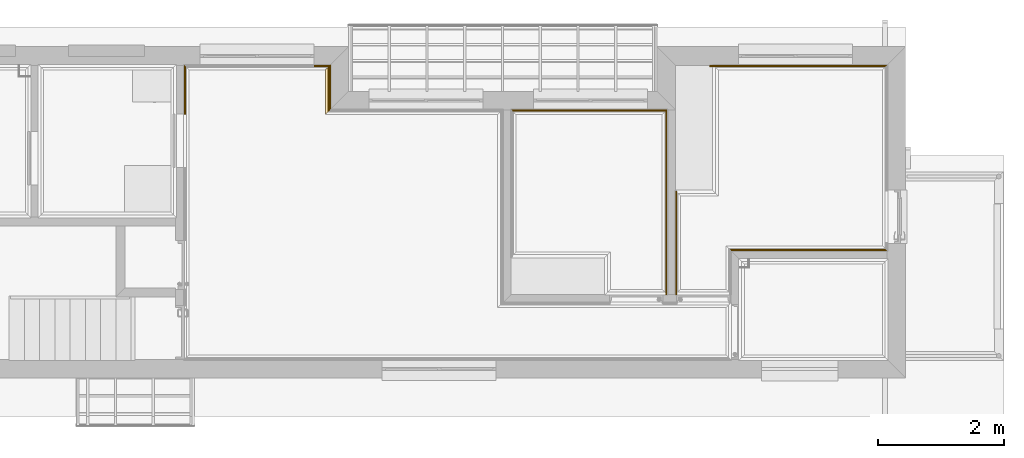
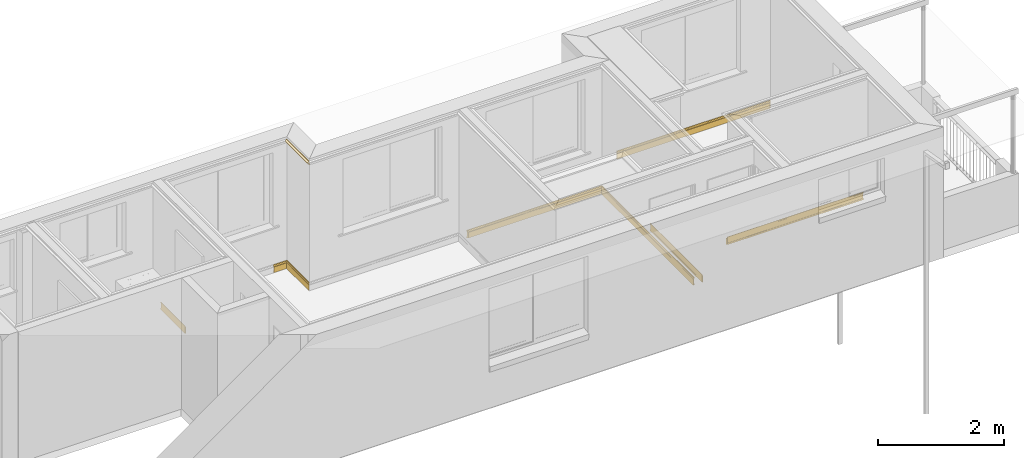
# One storey, part 8 of 18: 9 coverings.
"""IFC2X3 building model written with IfcOpenShell, lengths in millimetres."""

import ifcopenshell
import ifcopenshell.guid

model = None  # the IFC model being written
_history = None  # IfcOwnerHistory: only IFC2X3 demands one
_inside = {}  # id of a spatial element -> (the spatial element, [elements in it])
_under = {}  # id of a project, library or spatial element -> (it, [spatial elements below it])
_declared = {}  # id of a project -> (the project, [libraries it declares])
_typed = {}  # id of a type object -> (the type object, [elements of that type])
_made_of = {}  # id of a material, layer set ... -> (it, [elements and type objects made of it])


def new_model(schema):
    """Start an empty IFC model of exactly this schema.

    Asked for "IFC4X3", IfcOpenShell would pick the latest addendum, in which some entities
    have other attributes; the version numbers below select the first issue.
    IFC2X3 requires an IfcOwnerHistory on every rooted entity: one is made here for all.
    """
    global model, _history
    if schema == "IFC4X3":
        model = ifcopenshell.file(schema_version=(4, 3, 0, 0))
    else:
        model = ifcopenshell.file(schema=schema)
    _inside.clear()
    _under.clear()
    _declared.clear()
    _typed.clear()
    _made_of.clear()
    _history = None
    if model.schema == "IFC2X3":
        org = make("IfcOrganization", Name="unknown")
        user = make(
            "IfcPersonAndOrganization",
            ThePerson=make("IfcPerson", FamilyName="unknown"),
            TheOrganization=org,
        )
        app = make(
            "IfcApplication",
            ApplicationDeveloper=org,
            Version="unknown",
            ApplicationFullName="unknown",
            ApplicationIdentifier="unknown",
        )
        _history = make(
            "IfcOwnerHistory",
            OwningUser=user,
            OwningApplication=app,
            ChangeAction="ADDED",
            CreationDate=0,
        )
    return model


def make(cls, **values):
    """One entity of the class cls with the attributes given. An attribute that is None is left unset."""
    return model.create_entity(
        cls, **{name: value for name, value in values.items() if value is not None}
    )


def entity(cls, *values):
    """Any entity or typed value of the class cls, its attributes in the order of the schema. None: left unset."""
    e = model.create_entity(cls)
    for i, value in enumerate(values):
        if value is not None:
            e[i] = value
    return e


def rooted(cls, **values):
    """An entity with a GlobalId (a new one), such as an element, a storey or a relation."""
    return make(cls, GlobalId=ifcopenshell.guid.new(), OwnerHistory=_history, **values)


def si_unit(unit_type, name, prefix=None):
    """IfcSIUnit, for example si_unit("LENGTHUNIT", "METRE", prefix="MILLI")."""
    return make("IfcSIUnit", UnitType=unit_type, Prefix=prefix, Name=name)


def converted_unit(unit_type, name, factor, base, dimensions=None, offset=None):
    """IfcConversionBasedUnit, such as the inch: factor (a typed value) times the base unit."""
    return make(
        "IfcConversionBasedUnit"
        if offset is None
        else "IfcConversionBasedUnitWithOffset",
        ConversionOffset=offset,
        Dimensions=None
        if dimensions is None
        else entity("IfcDimensionalExponents", *dimensions),
        UnitType=unit_type,
        Name=name,
        ConversionFactor=make(
            "IfcMeasureWithUnit", ValueComponent=factor, UnitComponent=base
        ),
    )


def money_unit(currency):
    """IfcMonetaryUnit."""
    return make("IfcMonetaryUnit", Currency=currency)


def assignment(units):
    """IfcUnitAssignment: the units of a project."""
    return None if units is None else make("IfcUnitAssignment", Units=units)


def point(xyz):
    """IfcCartesianPoint."""
    return None if xyz is None else make("IfcCartesianPoint", Coordinates=xyz)


def direction(xyz):
    """IfcDirection."""
    return None if xyz is None else make("IfcDirection", DirectionRatios=xyz)


def frame(location, z_axis=None, x_axis=None):
    """IfcAxis2Placement3D, a coordinate frame: its origin and axes. An axis left out is left unset."""
    return make(
        "IfcAxis2Placement3D",
        Location=point(location),
        Axis=direction(z_axis),
        RefDirection=direction(x_axis),
    )


def origin_with_axes():
    """The frame at (0, 0, 0) with the z axis (0, 0, 1) and the x axis (1, 0, 0) written out."""
    return frame((0.0, 0.0, 0.0), z_axis=(0.0, 0.0, 1.0), x_axis=(1.0, 0.0, 0.0))


def place(relative_to, where):
    """IfcLocalPlacement: puts the frame where relative to a parent placement (None: the world)."""
    return make(
        "IfcLocalPlacement", PlacementRelTo=relative_to, RelativePlacement=where
    )


def context(
    kind, dimensions, precision=None, world=None, true_north=None, identifier=None
):
    """IfcGeometricRepresentationContext, for example the 3D "Model" context."""
    return make(
        "IfcGeometricRepresentationContext",
        ContextIdentifier=identifier,
        ContextType=kind,
        CoordinateSpaceDimension=dimensions,
        Precision=precision,
        WorldCoordinateSystem=world,
        TrueNorth=true_north,
    )


def subcontext(parent, identifier, kind, view, scale=None):
    """IfcGeometricRepresentationSubContext, for example "Body" below "Model"."""
    return make(
        "IfcGeometricRepresentationSubContext",
        ContextIdentifier=identifier,
        ContextType=kind,
        ParentContext=parent,
        TargetScale=scale,
        TargetView=view,
    )


def project(units=None, contexts=None):
    """IfcProject with its units and contexts."""
    return rooted(
        "IfcProject",
        Name="project",
        RepresentationContexts=contexts,
        UnitsInContext=assignment(units),
    )


def spatial(cls, under=None, at=None, **own):
    """A site, building, storey or space (cls), placed at a placement, below another one or the project."""
    s = rooted(cls, ObjectPlacement=at, **own)
    if under is not None:
        _under.setdefault(under.id(), (under, []))[1].append(s)
    return s


def faces_of(points, faces, orient=None, outer=None):
    """IfcFace entities. A face is a list of loops; a loop is a list of indices into points, from 0.

    orient and outer hold one flag for each loop. By default every Orientation is true, the
    first loop of a face is its IfcFaceOuterBound and the others are IfcFaceBound.
    """
    made = []
    for i, loops in enumerate(faces):
        bounds = []
        for j, loop in enumerate(loops):
            is_outer = j == 0 if outer is None else outer[i][j]
            bounds.append(
                make(
                    "IfcFaceOuterBound" if is_outer else "IfcFaceBound",
                    Bound=make("IfcPolyLoop", Polygon=[points[k] for k in loop]),
                    Orientation=True if orient is None else orient[i][j],
                )
            )
        made.append(make("IfcFace", Bounds=bounds))
    return made


def faceted_brep(points, faces, orient=None, outer=None, voids=None):
    """IfcFacetedBrep: a solid bounded by flat faces; with voids (closed shells), ...WithVoids."""
    shared = [point(p) for p in points]
    hull = make("IfcClosedShell", CfsFaces=faces_of(shared, faces, orient, outer))
    if voids is None:
        return make("IfcFacetedBrep", Outer=hull)
    return make(
        "IfcFacetedBrepWithVoids",
        Outer=hull,
        Voids=[
            make(cls, CfsFaces=faces_of(shared, fs, o, b)) for cls, fs, o, b in voids
        ],
    )


def shape(context_of_items, identifier, shape_type, items):
    """IfcShapeRepresentation: the items that make up one representation, for example the "Body"."""
    return make(
        "IfcShapeRepresentation",
        ContextOfItems=context_of_items,
        RepresentationIdentifier=identifier,
        RepresentationType=shape_type,
        Items=items,
    )


def source(mapping_origin, context_of_items, identifier, shape_type, items):
    """IfcRepresentationMap: a shape defined once, which mapped items show again and again."""
    return make(
        "IfcRepresentationMap",
        MappingOrigin=mapping_origin,
        MappedRepresentation=shape(context_of_items, identifier, shape_type, items),
    )


def transform(
    local_origin,
    x_axis=None,
    y_axis=None,
    z_axis=None,
    scale=None,
    scale2=None,
    scale3=None,
    uniform=True,
):
    """IfcCartesianTransformationOperator3D, or its non-uniform kind. x_axis, y_axis, z_axis: its Axis1, 2, 3."""
    if uniform:
        return make(
            "IfcCartesianTransformationOperator3D",
            Axis1=direction(x_axis),
            Axis2=direction(y_axis),
            LocalOrigin=point(local_origin),
            Scale=scale,
            Axis3=direction(z_axis),
        )
    return make(
        "IfcCartesianTransformationOperator3DnonUniform",
        Axis1=direction(x_axis),
        Axis2=direction(y_axis),
        LocalOrigin=point(local_origin),
        Scale=scale,
        Axis3=direction(z_axis),
        Scale2=scale2,
        Scale3=scale3,
    )


def mapped(mapping_source, mapping_target):
    """IfcMappedItem: shows the shape of a source again, moved by a transform."""
    return make(
        "IfcMappedItem", MappingSource=mapping_source, MappingTarget=mapping_target
    )


def material(Name=None, Category=None):
    """IfcMaterial."""
    return make("IfcMaterial", Name=Name, Category=Category)


def made_of(thing, what):
    """Note that an element or type object is made of a material, layer set ...; save() writes the relation."""
    if what is not None:
        _made_of.setdefault(what.id(), (what, []))[1].append(thing)
    return thing


def type_object(cls, material=None, **own):
    """A type object (cls), such as IfcWallType, which elements share."""
    return made_of(rooted(cls, **own), material)


def element(
    cls,
    number,
    at=None,
    inside=None,
    cuts=None,
    type_object=None,
    material=None,
    context=None,
    identifier="Body",
    shape_type=None,
    held_by="IfcProductDefinitionShape",
    body=None,
    shapes=None,
    **own,
):
    """One element of the class cls, such as IfcWall. Its Tag is "e" and its number.

    at: its placement. inside: the storey or other place that contains it. cuts: it is an
    opening in that element (IfcRelVoidsElement). A single representation is given by context,
    identifier, shape_type and body (its items); several are given by shapes. held_by: the class
    of the entity that holds the representations. save() writes the other relations.
    """
    e = rooted(cls, Tag="e%d" % number, ObjectPlacement=at, **own)
    if body is not None:
        shapes = [shape(context, identifier, shape_type, body)]
    if shapes is not None:
        e.Representation = make(held_by, Representations=shapes)
    if inside is not None:
        _inside.setdefault(inside.id(), (inside, []))[1].append(e)
    if cuts is not None:
        rooted(
            "IfcRelVoidsElement", RelatingBuildingElement=cuts, RelatedOpeningElement=e
        )
    if type_object is not None:
        _typed.setdefault(type_object.id(), (type_object, []))[1].append(e)
    return made_of(e, material)


def aggregate(whole, parts):
    """IfcRelAggregates: a whole, such as a stair, and the parts it consists of."""
    return rooted("IfcRelAggregates", RelatingObject=whole, RelatedObjects=parts)


def save(model, path):
    """Write the relations noted so far, then the file.

    IfcRelAggregates (storeys below a building ...), IfcRelContainedInSpatialStructure (elements
    in a storey), IfcRelDefinesByType, IfcRelAssociatesMaterial and IfcRelDeclares: one each for
    every whole, place, type object, material and project.
    """
    for whole, parts in _under.values():
        aggregate(whole, parts)
    for where, things in _inside.values():
        rooted(
            "IfcRelContainedInSpatialStructure",
            RelatedElements=things,
            RelatingStructure=where,
        )
    for kind, things in _typed.values():
        rooted("IfcRelDefinesByType", RelatedObjects=things, RelatingType=kind)
    for what, things in _made_of.values():
        rooted("IfcRelAssociatesMaterial", RelatedObjects=things, RelatingMaterial=what)
    for by, libraries in _declared.values():
        rooted("IfcRelDeclares", RelatingContext=by, RelatedDefinitions=libraries)
    model.write(path)


model = new_model("IFC2X3")

# Units and contexts
model_context = context("Model", 3, precision=1e-05, world=origin_with_axes(), true_north=direction((0.0, 1.0)))
body_context = subcontext(model_context, "Body", "Model", "MODEL_VIEW")
ifc_project = project(units=[si_unit("LENGTHUNIT", "METRE", prefix="MILLI"), si_unit("AREAUNIT", "SQUARE_METRE"), si_unit("VOLUMEUNIT", "CUBIC_METRE"), converted_unit("PLANEANGLEUNIT", "DEGREE", entity("IfcPlaneAngleMeasure", 0.0174532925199), si_unit("PLANEANGLEUNIT", "RADIAN"), dimensions=[0, 0, 0, 0, 0, 0, 0]), si_unit("SOLIDANGLEUNIT", "STERADIAN"), money_unit("AUD"), si_unit("TIMEUNIT", "SECOND"), si_unit("MASSUNIT", "GRAM"), si_unit("THERMODYNAMICTEMPERATUREUNIT", "DEGREE_CELSIUS"), si_unit("LUMINOUSINTENSITYUNIT", "LUMEN")], contexts=[model_context])

# Site, building, storey
site_placement = place(None, origin_with_axes())
site = spatial("IfcSite", under=ifc_project, at=site_placement, Name="Lot 1. East Hills", CompositionType="ELEMENT")
building_placement = place(site_placement, origin_with_axes())
building = spatial("IfcBuilding", under=site, at=building_placement, Name="Proposed Units 7 & 8", CompositionType="ELEMENT")
storey_placement = place(building_placement, frame((0.0, 0.0, 5859.0), z_axis=(0.0, 0.0, 1.0), x_axis=(1.0, 0.0, 0.0)))
storey = spatial("IfcBuildingStorey", under=building, at=storey_placement, Name="Level 1", CompositionType="ELEMENT", Elevation=5859.0)

# Coverings
ifc_material = material(Name="50 %")
covering_type = type_object("IfcCoveringType", Name="Molding Straight 12", PredefinedType="NOTDEFINED")
shared_shape_1 = source(origin_with_axes(), body_context, "Body", "Brep", [
    faceted_brep([(710.0, 0.0, -97.7142857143), (730.571428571, -20.5714285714, -97.7142857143), (20.5714285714, -20.5714285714, -97.7142857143), (0.0, 0.0, -97.7142857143), (710.0, 0.0, -48.8571428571), (758.857142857, -48.8571428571, 0.0), (800.0, -90.0, 0.0), (800.0, -90.0, -12.8571428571), (784.571428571, -74.5714285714, -12.8571428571), (784.571428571, -74.5714285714, -25.7142857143), (770.595200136, -60.5952001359, -27.5542910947), (757.571428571, -47.5714285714, -32.9489139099), (746.387662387, -36.3876623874, -41.5305195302), (737.806056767, -27.8060567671, -52.7142857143), (732.411433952, -22.4114339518, -65.7380572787), (730.571428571, -20.5714285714, -79.7142857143), (20.5714285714, -20.5714285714, -79.7142857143), (22.4114339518, -22.4114339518, -65.7380572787), (27.8060567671, -27.8060567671, -52.7142857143), (36.3876623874, -36.3876623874, -41.5305195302), (47.5714285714, -47.5714285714, -32.9489139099), (60.5952001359, -60.5952001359, -27.5542910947), (74.5714285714, -74.5714285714, -25.7142857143), (74.5714285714, -74.5714285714, -12.8571428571), (90.0, -90.0, -12.8571428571), (90.0, -90.0, 0.0), (48.8571428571, -48.8571428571, 0.0), (0.0, 0.0, -48.8571428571)], [[[0, 1, 2, 3]], [[0, 4, 5, 6, 7, 8, 9, 10, 11, 12, 13, 14, 15, 1]], [[1, 15, 16, 2]], [[3, 2, 16, 17, 18, 19, 20, 21, 22, 23, 24, 25, 26, 27]], [[4, 0, 3, 27]], [[5, 4, 27, 26]], [[6, 5, 26, 25]], [[7, 6, 25, 24]], [[8, 7, 24, 23]], [[9, 8, 23, 22]], [[10, 9, 22, 21]], [[11, 10, 21, 20]], [[12, 11, 20, 19]], [[13, 12, 19, 18]], [[14, 13, 18, 17]], [[15, 14, 17, 16]]]),
])
covering_1_placement = place(storey_placement, frame((6695.00000067, 4983.00000067, 2523.0), z_axis=(0.0, 0.0, 1.0), x_axis=(0.0, -1.0, 0.0)))
element("IfcCovering", 1, at=covering_1_placement, inside=storey, type_object=covering_type, material=ifc_material, Name="CEL_MOD_116 - Molding Straight 12 - object -", PredefinedType="NOTDEFINED", context=body_context, shape_type="MappedRepresentation", body=[
    mapped(shared_shape_1, transform((0.0, 0.0, 0.0))),
])
shared_shape_2 = source(origin_with_axes(), body_context, "Body", "Brep", [
    faceted_brep([(755.969104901, -19.0298507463, -150.0), (755.969104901, -19.0298507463, -40.2985074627), (-0.770391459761, -19.0298507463, -40.2985074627), (-0.770391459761, -19.0298507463, -150.0), (774.998955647, 0.0, -150.0), (774.998955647, 0.0, -120.895522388), (772.760149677, -2.23880597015, -118.656716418), (772.760149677, -2.23880597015, -24.6268656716), (774.998955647, 0.0, -22.3880597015), (774.998955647, 0.0, 0.0), (768.282537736, -6.71641791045, 0.0), (766.043731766, -8.9552238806, -4.4776119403), (765.806984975, -9.19197067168, -5.17383533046), (765.765796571, -9.23315907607, -5.90805571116), (765.923189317, -9.07576633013, -6.62638959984), (766.267612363, -8.73134328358, -7.27611940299), (766.827742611, -8.1712130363, -8.36014699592), (767.051194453, -7.94776119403, -9.55970149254), (766.750418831, -8.2485368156, -12.6066468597), (765.641066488, -9.35788915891, -15.4603601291), (763.804925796, -11.1940298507, -17.9104477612), (759.377758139, -15.6211975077, -24.0923863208), (757.088507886, -17.9104477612, -31.3432835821), (757.073234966, -17.9257206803, -33.6342255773), (757.697477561, -17.3014780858, -35.8385326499), (758.911701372, -16.087254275, -37.7812907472), (760.61955648, -14.3793991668, -39.3083399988), (762.685522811, -12.3134328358, -40.2985074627), (-0.49848859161, -12.3134328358, -40.2985074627), (-0.582125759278, -14.3793991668, -39.3083399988), (-0.651265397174, -16.087254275, -37.7812907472), (-0.70042120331, -17.3014780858, -35.8385326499), (-0.725692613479, -17.9257206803, -33.6342255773), (-0.725074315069, -17.9104477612, -31.3432835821), (-0.632397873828, -15.6211975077, -24.0923863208), (-0.453171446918, -11.1940298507, -17.9104477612), (-0.378838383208, -9.35788915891, -15.4603601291), (-0.333928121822, -8.2485368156, -12.6066468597), (-0.321751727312, -7.94776119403, -9.55970149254), (-0.330797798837, -8.1712130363, -8.36014699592), (-0.353473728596, -8.73134328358, -7.27611940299), (-0.367417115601, -9.07576633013, -6.62638959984), (-0.37378889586, -9.23315907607, -5.90805571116), (-0.372121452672, -9.19197067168, -5.17383533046), (-0.362537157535, -8.9552238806, -4.4776119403), (-0.271902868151, -6.71641791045, 0.0), (0.0, 0.0, 0.0), (0.0, 0.0, -22.3880597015), (-0.0906342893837, -2.23880597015, -24.6268656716), (-0.0906342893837, -2.23880597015, -118.656716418), (0.0, 0.0, -120.895522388), (0.0, 0.0, -150.0)], [[[0, 1, 2, 3]], [[0, 4, 5, 6, 7, 8, 9, 10, 11, 12, 13, 14, 15, 16, 17, 18, 19, 20, 21, 22, 23, 24, 25, 26, 27, 1]], [[1, 27, 28, 2]], [[3, 2, 28, 29, 30, 31, 32, 33, 34, 35, 36, 37, 38, 39, 40, 41, 42, 43, 44, 45, 46, 47, 48, 49, 50, 51]], [[4, 0, 3, 51]], [[5, 4, 51, 50]], [[6, 5, 50, 49]], [[7, 6, 49, 48]], [[8, 7, 48, 47]], [[9, 8, 47, 46]], [[10, 9, 46, 45]], [[11, 10, 45, 44]], [[12, 11, 44, 43]], [[13, 12, 43, 42]], [[14, 13, 42, 41]], [[15, 14, 41, 40]], [[16, 15, 40, 39]], [[17, 16, 39, 38]], [[18, 17, 38, 37]], [[19, 18, 37, 36]], [[20, 19, 36, 35]], [[21, 20, 35, 34]], [[22, 21, 34, 33]], [[23, 22, 33, 32]], [[24, 23, 32, 31]], [[25, 24, 31, 30]], [[26, 25, 30, 29]], [[27, 26, 29, 28]]]),
])
covering_2_placement = place(storey_placement, frame((4365.00803954, 4193.00104557, 150.0), z_axis=(0.0, 0.0, 1.0), x_axis=(-7.51477654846e-06, 0.999999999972, 0.0)))
element("IfcCovering", 2, at=covering_2_placement, inside=storey, type_object=covering_type, material=ifc_material, Name="Sk_01 - Molding Straight 12 - object -", PredefinedType="NOTDEFINED", context=body_context, shape_type="MappedRepresentation", body=[
    mapped(shared_shape_2, transform((0.0, 0.0, 0.0))),
])
shared_shape_3 = source(origin_with_axes(), body_context, "Body", "Brep", [
    faceted_brep([(233.467932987, -19.0298507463, -150.0), (233.467932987, -19.0298507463, -40.2985074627), (0.0, -19.0298507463, -40.2985074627), (0.0, -19.0298507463, -150.0), (252.497783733, 0.0, -150.0), (252.497783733, 0.0, -120.895522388), (250.258977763, -2.23880597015, -118.656716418), (250.258977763, -2.23880597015, -24.6268656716), (252.497783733, 0.0, -22.3880597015), (252.497783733, 0.0, 0.0), (245.781365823, -6.71641791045, 0.0), (243.542559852, -8.9552238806, -4.4776119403), (243.305813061, -9.19197067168, -5.17383533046), (243.264624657, -9.23315907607, -5.90805571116), (243.422017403, -9.07576633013, -6.62638959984), (243.766440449, -8.73134328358, -7.27611940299), (244.326570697, -8.1712130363, -8.36014699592), (244.550022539, -7.94776119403, -9.55970149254), (244.249246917, -8.2485368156, -12.6066468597), (243.139894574, -9.35788915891, -15.4603601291), (241.303753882, -11.1940298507, -17.9104477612), (236.876586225, -15.6211975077, -24.0923863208), (234.587335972, -17.9104477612, -31.3432835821), (234.572063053, -17.9257206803, -33.6342255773), (235.196305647, -17.3014780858, -35.8385326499), (236.410529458, -16.087254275, -37.7812907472), (238.118384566, -14.3793991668, -39.3083399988), (240.184350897, -12.3134328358, -40.2985074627), (0.0, -12.3134328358, -40.2985074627), (0.0, -14.3793991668, -39.3083399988), (0.0, -16.087254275, -37.7812907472), (0.0, -17.3014780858, -35.8385326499), (0.0, -17.9257206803, -33.6342255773), (0.0, -17.9104477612, -31.3432835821), (0.0, -15.6211975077, -24.0923863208), (0.0, -11.1940298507, -17.9104477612), (0.0, -9.35788915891, -15.4603601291), (0.0, -8.2485368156, -12.6066468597), (0.0, -7.94776119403, -9.55970149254), (0.0, -8.1712130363, -8.36014699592), (0.0, -8.73134328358, -7.27611940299), (0.0, -9.07576633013, -6.62638959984), (0.0, -9.23315907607, -5.90805571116), (0.0, -9.19197067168, -5.17383533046), (0.0, -8.9552238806, -4.4776119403), (0.0, -6.71641791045, 0.0), (0.0, 0.0, 0.0), (0.0, 0.0, -22.3880597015), (0.0, -2.23880597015, -24.6268656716), (0.0, -2.23880597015, -118.656716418), (0.0, 0.0, -120.895522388), (0.0, 0.0, -150.0)], [[[0, 1, 2, 3]], [[0, 4, 5, 6, 7, 8, 9, 10, 11, 12, 13, 14, 15, 16, 17, 18, 19, 20, 21, 22, 23, 24, 25, 26, 27, 1]], [[1, 27, 28, 2]], [[3, 2, 28, 29, 30, 31, 32, 33, 34, 35, 36, 37, 38, 39, 40, 41, 42, 43, 44, 45, 46, 47, 48, 49, 50, 51]], [[4, 0, 3, 51]], [[5, 4, 51, 50]], [[6, 5, 50, 49]], [[7, 6, 49, 48]], [[8, 7, 48, 47]], [[9, 8, 47, 46]], [[10, 9, 46, 45]], [[11, 10, 45, 44]], [[12, 11, 44, 43]], [[13, 12, 43, 42]], [[14, 13, 42, 41]], [[15, 14, 41, 40]], [[16, 15, 40, 39]], [[17, 16, 39, 38]], [[18, 17, 38, 37]], [[19, 18, 37, 36]], [[20, 19, 36, 35]], [[21, 20, 35, 34]], [[22, 21, 34, 33]], [[23, 22, 33, 32]], [[24, 23, 32, 31]], [[25, 24, 31, 30]], [[26, 25, 30, 29]], [[27, 26, 29, 28]]]),
])
covering_3_placement = place(storey_placement, frame((6427.49999933, 4968.00000119, 150.0), z_axis=(0.0, 0.0, 1.0), x_axis=(1.0, 0.0, 0.0)))
element("IfcCovering", 3, at=covering_3_placement, inside=storey, type_object=covering_type, material=ifc_material, Name="Sk_01 - Molding Straight 12 - object -", PredefinedType="NOTDEFINED", context=body_context, shape_type="MappedRepresentation", body=[
    mapped(shared_shape_3, transform((0.0, 0.0, 0.0))),
])
shared_shape_4 = source(origin_with_axes(), body_context, "Body", "Brep", [
    faceted_brep([(729.032068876, -19.0298507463, -150.0), (729.032068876, -19.0298507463, -40.2985074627), (19.0298507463, -19.0298507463, -40.2985074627), (19.0298507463, -19.0298507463, -150.0), (710.00221813, 0.0, -150.0), (710.00221813, 0.0, -120.895522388), (712.2410241, -2.23880597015, -118.656716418), (712.2410241, -2.23880597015, -24.6268656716), (710.00221813, 0.0, -22.3880597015), (710.00221813, 0.0, 0.0), (716.71863604, -6.71641791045, 0.0), (718.95744201, -8.9552238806, -4.4776119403), (719.194188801, -9.19197067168, -5.17383533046), (719.235377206, -9.23315907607, -5.90805571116), (719.07798446, -9.07576633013, -6.62638959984), (718.733561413, -8.73134328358, -7.27611940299), (718.173431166, -8.1712130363, -8.36014699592), (717.949979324, -7.94776119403, -9.55970149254), (718.250754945, -8.2485368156, -12.6066468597), (719.360107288, -9.35788915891, -15.4603601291), (721.19624798, -11.1940298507, -17.9104477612), (725.623415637, -15.6211975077, -24.0923863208), (727.912665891, -17.9104477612, -31.3432835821), (727.92793881, -17.9257206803, -33.6342255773), (727.303696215, -17.3014780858, -35.8385326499), (726.089472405, -16.087254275, -37.7812907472), (724.381617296, -14.3793991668, -39.3083399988), (722.315650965, -12.3134328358, -40.2985074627), (12.3134328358, -12.3134328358, -40.2985074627), (14.3793991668, -14.3793991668, -39.3083399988), (16.087254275, -16.087254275, -37.7812907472), (17.3014780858, -17.3014780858, -35.8385326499), (17.9257206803, -17.9257206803, -33.6342255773), (17.9104477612, -17.9104477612, -31.3432835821), (15.6211975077, -15.6211975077, -24.0923863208), (11.1940298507, -11.1940298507, -17.9104477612), (9.35788915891, -9.35788915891, -15.4603601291), (8.2485368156, -8.2485368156, -12.6066468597), (7.94776119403, -7.94776119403, -9.55970149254), (8.1712130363, -8.1712130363, -8.36014699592), (8.73134328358, -8.73134328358, -7.27611940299), (9.07576633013, -9.07576633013, -6.62638959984), (9.23315907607, -9.23315907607, -5.90805571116), (9.19197067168, -9.19197067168, -5.17383533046), (8.9552238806, -8.9552238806, -4.4776119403), (6.71641791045, -6.71641791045, 0.0), (0.0, 0.0, 0.0), (0.0, 0.0, -22.3880597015), (2.23880597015, -2.23880597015, -24.6268656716), (2.23880597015, -2.23880597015, -118.656716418), (0.0, 0.0, -120.895522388), (0.0, 0.0, -150.0)], [[[0, 1, 2, 3]], [[0, 4, 5, 6, 7, 8, 9, 10, 11, 12, 13, 14, 15, 16, 17, 18, 19, 20, 21, 22, 23, 24, 25, 26, 27, 1]], [[1, 27, 28, 2]], [[3, 2, 28, 29, 30, 31, 32, 33, 34, 35, 36, 37, 38, 39, 40, 41, 42, 43, 44, 45, 46, 47, 48, 49, 50, 51]], [[4, 0, 3, 51]], [[5, 4, 51, 50]], [[6, 5, 50, 49]], [[7, 6, 49, 48]], [[8, 7, 48, 47]], [[9, 8, 47, 46]], [[10, 9, 46, 45]], [[11, 10, 45, 44]], [[12, 11, 44, 43]], [[13, 12, 43, 42]], [[14, 13, 42, 41]], [[15, 14, 41, 40]], [[16, 15, 40, 39]], [[17, 16, 39, 38]], [[18, 17, 38, 37]], [[19, 18, 37, 36]], [[20, 19, 36, 35]], [[21, 20, 35, 34]], [[22, 21, 34, 33]], [[23, 22, 33, 32]], [[24, 23, 32, 31]], [[25, 24, 31, 30]], [[26, 25, 30, 29]], [[27, 26, 29, 28]]]),
])
covering_4_placement = place(storey_placement, frame((6680.00000119, 4968.00221932, 150.0), z_axis=(0.0, 0.0, 1.0), x_axis=(0.0, -1.0, 0.0)))
element("IfcCovering", 4, at=covering_4_placement, inside=storey, type_object=covering_type, material=ifc_material, Name="Sk_01 - Molding Straight 12 - object -", PredefinedType="NOTDEFINED", context=body_context, shape_type="MappedRepresentation", body=[
    mapped(shared_shape_4, transform((0.0, 0.0, 0.0))),
])
shared_shape_5 = source(origin_with_axes(), body_context, "Body", "Brep", [
    faceted_brep([(2455.97015037, -19.0298507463, -150.0), (2455.97015037, -19.0298507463, -40.2985074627), (19.0298507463, -19.0298507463, -40.2985074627), (19.0298507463, -19.0298507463, -150.0), (2475.00000112, 0.0, -150.0), (2475.00000112, 0.0, -120.895522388), (2472.76119515, -2.23880597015, -118.656716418), (2472.76119515, -2.23880597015, -24.6268656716), (2475.00000112, 0.0, -22.3880597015), (2475.00000112, 0.0, 0.0), (2468.28358321, -6.71641791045, 0.0), (2466.04477724, -8.9552238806, -4.4776119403), (2465.80803045, -9.19197067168, -5.17383533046), (2465.76684204, -9.23315907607, -5.90805571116), (2465.92423479, -9.07576633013, -6.62638959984), (2466.26865783, -8.73134328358, -7.27611940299), (2466.82878808, -8.1712130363, -8.36014699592), (2467.05223992, -7.94776119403, -9.55970149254), (2466.7514643, -8.2485368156, -12.6066468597), (2465.64211196, -9.35788915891, -15.4603601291), (2463.80597127, -11.1940298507, -17.9104477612), (2459.37880361, -15.6211975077, -24.0923863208), (2457.08955336, -17.9104477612, -31.3432835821), (2457.07428044, -17.9257206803, -33.6342255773), (2457.69852303, -17.3014780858, -35.8385326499), (2458.91274684, -16.087254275, -37.7812907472), (2460.62060195, -14.3793991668, -39.3083399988), (2462.68656828, -12.3134328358, -40.2985074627), (12.3134328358, -12.3134328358, -40.2985074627), (14.3793991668, -14.3793991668, -39.3083399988), (16.087254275, -16.087254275, -37.7812907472), (17.3014780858, -17.3014780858, -35.8385326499), (17.9257206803, -17.9257206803, -33.6342255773), (17.9104477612, -17.9104477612, -31.3432835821), (15.6211975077, -15.6211975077, -24.0923863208), (11.1940298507, -11.1940298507, -17.9104477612), (9.35788915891, -9.35788915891, -15.4603601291), (8.2485368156, -8.2485368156, -12.6066468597), (7.94776119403, -7.94776119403, -9.55970149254), (8.1712130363, -8.1712130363, -8.36014699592), (8.73134328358, -8.73134328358, -7.27611940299), (9.07576633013, -9.07576633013, -6.62638959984), (9.23315907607, -9.23315907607, -5.90805571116), (9.19197067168, -9.19197067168, -5.17383533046), (8.9552238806, -8.9552238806, -4.4776119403), (6.71641791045, -6.71641791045, 0.0), (0.0, 0.0, 0.0), (0.0, 0.0, -22.3880597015), (2.23880597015, -2.23880597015, -24.6268656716), (2.23880597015, -2.23880597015, -118.656716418), (0.0, 0.0, -120.895522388), (0.0, 0.0, -150.0)], [[[0, 1, 2, 3]], [[0, 4, 5, 6, 7, 8, 9, 10, 11, 12, 13, 14, 15, 16, 17, 18, 19, 20, 21, 22, 23, 24, 25, 26, 27, 1]], [[1, 27, 28, 2]], [[3, 2, 28, 29, 30, 31, 32, 33, 34, 35, 36, 37, 38, 39, 40, 41, 42, 43, 44, 45, 46, 47, 48, 49, 50, 51]], [[4, 0, 3, 51]], [[5, 4, 51, 50]], [[6, 5, 50, 49]], [[7, 6, 49, 48]], [[8, 7, 48, 47]], [[9, 8, 47, 46]], [[10, 9, 46, 45]], [[11, 10, 45, 44]], [[12, 11, 44, 43]], [[13, 12, 43, 42]], [[14, 13, 42, 41]], [[15, 14, 41, 40]], [[16, 15, 40, 39]], [[17, 16, 39, 38]], [[18, 17, 38, 37]], [[19, 18, 37, 36]], [[20, 19, 36, 35]], [[21, 20, 35, 34]], [[22, 21, 34, 33]], [[23, 22, 33, 32]], [[24, 23, 32, 31]], [[25, 24, 31, 30]], [[26, 25, 30, 29]], [[27, 26, 29, 28]]]),
])
covering_5_placement = place(storey_placement, frame((9559.99999896, 4258.00000119, 150.0), z_axis=(0.0, 0.0, 1.0), x_axis=(1.0, 0.0, 0.0)))
element("IfcCovering", 5, at=covering_5_placement, inside=storey, type_object=covering_type, material=ifc_material, Name="Sk_01 - Molding Straight 12 - object -", PredefinedType="NOTDEFINED", context=body_context, shape_type="MappedRepresentation", body=[
    mapped(shared_shape_5, transform((0.0, 0.0, 0.0))),
])
shared_shape_6 = source(origin_with_axes(), body_context, "Body", "Brep", [
    faceted_brep([(2935.010151, -19.0298507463, -150.0), (2935.010151, -19.0298507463, -40.2985074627), (18.9658913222, -19.0298507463, -40.2985074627), (18.9658913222, -19.0298507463, -150.0), (2934.99965468, 0.0, -150.0), (2934.99965468, 0.0, -120.895522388), (2935.00088954, -2.23880597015, -118.656716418), (2935.00088954, -2.23880597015, -24.6268656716), (2934.99965468, 0.0, -22.3880597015), (2934.99965468, 0.0, 0.0), (2935.00335926, -6.71641791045, 0.0), (2935.00459412, -8.9552238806, -4.4776119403), (2935.00472471, -9.19197067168, -5.17383533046), (2935.00474743, -9.23315907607, -5.90805571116), (2935.00466061, -9.07576633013, -6.62638959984), (2935.00447064, -8.73134328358, -7.27611940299), (2935.00416169, -8.1712130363, -8.36014699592), (2935.00403844, -7.94776119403, -9.55970149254), (2935.00420434, -8.2485368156, -12.6066468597), (2935.00481622, -9.35788915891, -15.4603601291), (2935.00582899, -11.1940298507, -17.9104477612), (2935.00827088, -15.6211975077, -24.0923863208), (2935.00953357, -17.9104477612, -31.3432835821), (2935.00954199, -17.9257206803, -33.6342255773), (2935.00919768, -17.3014780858, -35.8385326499), (2935.00852795, -16.087254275, -37.7812907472), (2935.00758594, -14.3793991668, -39.3083399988), (2935.00644642, -12.3134328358, -40.2985074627), (12.2720473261, -12.3134328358, -40.2985074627), (14.3310699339, -14.3793991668, -39.3083399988), (16.0331849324, -16.087254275, -37.7812907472), (17.2433277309, -17.3014780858, -35.8385326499), (17.865472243, -17.9257206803, -33.6342255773), (17.8502506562, -17.9104477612, -31.3432835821), (15.5686945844, -15.6211975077, -24.0923863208), (11.1564066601, -11.1940298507, -17.9104477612), (9.32643724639, -9.35788915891, -15.4603601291), (8.22081344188, -8.2485368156, -12.6066468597), (7.92104872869, -7.94776119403, -9.55970149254), (8.1437495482, -8.1712130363, -8.36014699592), (8.7019971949, -8.73134328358, -7.27611940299), (9.04526263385, -9.07576633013, -6.62638959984), (9.20212638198, -9.23315907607, -5.90805571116), (9.16107641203, -9.19197067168, -5.17383533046), (8.9251253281, -8.9552238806, -4.4776119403), (6.69384399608, -6.71641791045, 0.0), (0.0, 0.0, 0.0), (0.0, 0.0, -22.3880597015), (2.23128133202, -2.23880597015, -24.6268656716), (2.23128133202, -2.23880597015, -118.656716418), (0.0, 0.0, -120.895522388), (0.0, 0.0, -150.0)], [[[0, 1, 2, 3]], [[0, 4, 5, 6, 7, 8, 9, 10, 11, 12, 13, 14, 15, 16, 17, 18, 19, 20, 21, 22, 23, 24, 25, 26, 27, 1]], [[1, 27, 28, 2]], [[3, 2, 28, 29, 30, 31, 32, 33, 34, 35, 36, 37, 38, 39, 40, 41, 42, 43, 44, 45, 46, 47, 48, 49, 50, 51]], [[4, 0, 3, 51]], [[5, 4, 51, 50]], [[6, 5, 50, 49]], [[7, 6, 49, 48]], [[8, 7, 48, 47]], [[9, 8, 47, 46]], [[10, 9, 46, 45]], [[11, 10, 45, 44]], [[12, 11, 44, 43]], [[13, 12, 43, 42]], [[14, 13, 42, 41]], [[15, 14, 41, 40]], [[16, 15, 40, 39]], [[17, 16, 39, 38]], [[18, 17, 38, 37]], [[19, 18, 37, 36]], [[20, 19, 36, 35]], [[21, 20, 35, 34]], [[22, 21, 34, 33]], [[23, 22, 33, 32]], [[24, 23, 32, 31]], [[25, 24, 31, 30]], [[26, 25, 30, 29]], [[27, 26, 29, 28]]]),
])
covering_6_placement = place(storey_placement, frame((12035.0838693, 4258.00000119, 150.0), z_axis=(0.0, 0.0, 1.0), x_axis=(0.0, -1.0, 0.0)))
element("IfcCovering", 6, at=covering_6_placement, inside=storey, type_object=covering_type, material=ifc_material, Name="Sk_01 - Molding Straight 12 - object -", PredefinedType="NOTDEFINED", context=body_context, shape_type="MappedRepresentation", body=[
    mapped(shared_shape_6, transform((0.0, 0.0, 0.0))),
])
shared_shape_7 = source(origin_with_axes(), body_context, "Body", "Brep", [
    faceted_brep([(2803.49087431, -19.0298507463, -150.0), (2803.49087431, -19.0298507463, -40.2985074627), (0.0, -19.0298507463, -40.2985074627), (0.0, -19.0298507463, -150.0), (2822.52072506, 0.0, -150.0), (2822.52072506, 0.0, -120.895522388), (2820.28191909, -2.23880597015, -118.656716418), (2820.28191909, -2.23880597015, -24.6268656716), (2822.52072506, 0.0, -22.3880597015), (2822.52072506, 0.0, 0.0), (2815.80430715, -6.71641791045, 0.0), (2813.56550118, -8.9552238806, -4.4776119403), (2813.32875439, -9.19197067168, -5.17383533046), (2813.28756598, -9.23315907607, -5.90805571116), (2813.44495873, -9.07576633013, -6.62638959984), (2813.78938177, -8.73134328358, -7.27611940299), (2814.34951202, -8.1712130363, -8.36014699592), (2814.57296386, -7.94776119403, -9.55970149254), (2814.27218824, -8.2485368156, -12.6066468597), (2813.1628359, -9.35788915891, -15.4603601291), (2811.32669521, -11.1940298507, -17.9104477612), (2806.89952755, -15.6211975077, -24.0923863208), (2804.6102773, -17.9104477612, -31.3432835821), (2804.59500438, -17.9257206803, -33.6342255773), (2805.21924697, -17.3014780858, -35.8385326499), (2806.43347078, -16.087254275, -37.7812907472), (2808.14132589, -14.3793991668, -39.3083399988), (2810.20729222, -12.3134328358, -40.2985074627), (0.0, -12.3134328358, -40.2985074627), (0.0, -14.3793991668, -39.3083399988), (0.0, -16.087254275, -37.7812907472), (0.0, -17.3014780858, -35.8385326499), (0.0, -17.9257206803, -33.6342255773), (0.0, -17.9104477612, -31.3432835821), (0.0, -15.6211975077, -24.0923863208), (0.0, -11.1940298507, -17.9104477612), (0.0, -9.35788915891, -15.4603601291), (0.0, -8.2485368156, -12.6066468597), (0.0, -7.94776119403, -9.55970149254), (0.0, -8.1712130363, -8.36014699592), (0.0, -8.73134328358, -7.27611940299), (0.0, -9.07576633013, -6.62638959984), (0.0, -9.23315907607, -5.90805571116), (0.0, -9.19197067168, -5.17383533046), (0.0, -8.9552238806, -4.4776119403), (0.0, -6.71641791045, 0.0), (0.0, 0.0, 0.0), (0.0, 0.0, -22.3880597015), (0.0, -2.23880597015, -24.6268656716), (0.0, -2.23880597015, -118.656716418), (0.0, 0.0, -120.895522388), (0.0, 0.0, -150.0)], [[[0, 1, 2, 3]], [[0, 4, 5, 6, 7, 8, 9, 10, 11, 12, 13, 14, 15, 16, 17, 18, 19, 20, 21, 22, 23, 24, 25, 26, 27, 1]], [[1, 27, 28, 2]], [[3, 2, 28, 29, 30, 31, 32, 33, 34, 35, 36, 37, 38, 39, 40, 41, 42, 43, 44, 45, 46, 47, 48, 49, 50, 51]], [[4, 0, 3, 51]], [[5, 4, 51, 50]], [[6, 5, 50, 49]], [[7, 6, 49, 48]], [[8, 7, 48, 47]], [[9, 8, 47, 46]], [[10, 9, 46, 45]], [[11, 10, 45, 44]], [[12, 11, 44, 43]], [[13, 12, 43, 42]], [[14, 13, 42, 41]], [[15, 14, 41, 40]], [[16, 15, 40, 39]], [[17, 16, 39, 38]], [[18, 17, 38, 37]], [[19, 18, 37, 36]], [[20, 19, 36, 35]], [[21, 20, 35, 34]], [[22, 21, 34, 33]], [[23, 22, 33, 32]], [[24, 23, 32, 31]], [[25, 24, 31, 30]], [[26, 25, 30, 29]], [[27, 26, 29, 28]]]),
])
covering_7_placement = place(storey_placement, frame((12712.3954069, 4968.00000119, 150.0), z_axis=(0.0, 0.0, 1.0), x_axis=(1.0, 0.0, 0.0)))
element("IfcCovering", 7, at=covering_7_placement, inside=storey, type_object=covering_type, material=ifc_material, Name="Sk_01 - Molding Straight 12 - object -", PredefinedType="NOTDEFINED", context=body_context, shape_type="MappedRepresentation", body=[
    mapped(shared_shape_7, transform((0.0, 0.0, 0.0))),
])
shared_shape_8 = source(origin_with_axes(), body_context, "Body", "Brep", [
    faceted_brep([(1645.00000134, -19.0298507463, -150.0), (1645.00000134, -19.0298507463, -40.2985074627), (0.0, -19.0298507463, -40.2985074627), (0.0, -19.0298507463, -150.0), (1645.00000134, 0.0, -150.0), (1645.00000134, 0.0, -120.895522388), (1645.00000134, -2.23880597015, -118.656716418), (1645.00000134, -2.23880597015, -24.6268656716), (1645.00000134, 0.0, -22.3880597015), (1645.00000134, 0.0, 0.0), (1645.00000134, -6.71641791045, 0.0), (1645.00000134, -8.9552238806, -4.4776119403), (1645.00000134, -9.19197067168, -5.17383533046), (1645.00000134, -9.23315907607, -5.90805571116), (1645.00000134, -9.07576633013, -6.62638959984), (1645.00000134, -8.73134328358, -7.27611940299), (1645.00000134, -8.1712130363, -8.36014699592), (1645.00000134, -7.94776119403, -9.55970149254), (1645.00000134, -8.2485368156, -12.6066468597), (1645.00000134, -9.35788915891, -15.4603601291), (1645.00000134, -11.1940298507, -17.9104477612), (1645.00000134, -15.6211975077, -24.0923863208), (1645.00000134, -17.9104477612, -31.3432835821), (1645.00000134, -17.9257206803, -33.6342255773), (1645.00000134, -17.3014780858, -35.8385326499), (1645.00000134, -16.087254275, -37.7812907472), (1645.00000134, -14.3793991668, -39.3083399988), (1645.00000134, -12.3134328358, -40.2985074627), (0.0, -12.3134328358, -40.2985074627), (0.0, -14.3793991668, -39.3083399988), (0.0, -16.087254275, -37.7812907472), (0.0, -17.3014780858, -35.8385326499), (0.0, -17.9257206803, -33.6342255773), (0.0, -17.9104477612, -31.3432835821), (0.0, -15.6211975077, -24.0923863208), (0.0, -11.1940298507, -17.9104477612), (0.0, -9.35788915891, -15.4603601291), (0.0, -8.2485368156, -12.6066468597), (0.0, -7.94776119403, -9.55970149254), (0.0, -8.1712130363, -8.36014699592), (0.0, -8.73134328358, -7.27611940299), (0.0, -9.07576633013, -6.62638959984), (0.0, -9.23315907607, -5.90805571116), (0.0, -9.19197067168, -5.17383533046), (0.0, -8.9552238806, -4.4776119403), (0.0, -6.71641791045, 0.0), (0.0, 0.0, 0.0), (0.0, 0.0, -22.3880597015), (0.0, -2.23880597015, -24.6268656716), (0.0, -2.23880597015, -118.656716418), (0.0, 0.0, -120.895522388), (0.0, 0.0, -150.0)], [[[0, 1, 2, 3]], [[0, 4, 5, 6, 7, 8, 9, 10, 11, 12, 13, 14, 15, 16, 17, 18, 19, 20, 21, 22, 23, 24, 25, 26, 27, 1]], [[1, 27, 28, 2]], [[3, 2, 28, 29, 30, 31, 32, 33, 34, 35, 36, 37, 38, 39, 40, 41, 42, 43, 44, 45, 46, 47, 48, 49, 50, 51]], [[4, 0, 3, 51]], [[5, 4, 51, 50]], [[6, 5, 50, 49]], [[7, 6, 49, 48]], [[8, 7, 48, 47]], [[9, 8, 47, 46]], [[10, 9, 46, 45]], [[11, 10, 45, 44]], [[12, 11, 44, 43]], [[13, 12, 43, 42]], [[14, 13, 42, 41]], [[15, 14, 41, 40]], [[16, 15, 40, 39]], [[17, 16, 39, 38]], [[18, 17, 38, 37]], [[19, 18, 37, 36]], [[20, 19, 36, 35]], [[21, 20, 35, 34]], [[22, 21, 34, 33]], [[23, 22, 33, 32]], [[24, 23, 32, 31]], [[25, 24, 31, 30]], [[26, 25, 30, 29]], [[27, 26, 29, 28]]]),
])
covering_8_placement = place(storey_placement, frame((12174.9999995, 1322.99999985, 150.0), z_axis=(0.0, 0.0, 1.0), x_axis=(0.0, 1.0, 0.0)))
element("IfcCovering", 8, at=covering_8_placement, inside=storey, type_object=covering_type, material=ifc_material, Name="Sk_01 - Molding Straight 12 - object -", PredefinedType="NOTDEFINED", context=body_context, shape_type="MappedRepresentation", body=[
    mapped(shared_shape_8, transform((0.0, 0.0, 0.0))),
])
shared_shape_9 = source(origin_with_axes(), body_context, "Body", "Brep", [
    faceted_brep([(2504.02985136, -19.0298507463, -150.0), (2504.02985136, -19.0298507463, -40.2985074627), (18.9658913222, -19.0298507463, -40.2985074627), (18.9658913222, -19.0298507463, -150.0), (2485.00000061, 0.0, -150.0), (2485.00000061, 0.0, -120.895522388), (2487.23880658, -2.23880597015, -118.656716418), (2487.23880658, -2.23880597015, -24.6268656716), (2485.00000061, 0.0, -22.3880597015), (2485.00000061, 0.0, 0.0), (2491.71641852, -6.71641791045, 0.0), (2493.95522449, -8.9552238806, -4.4776119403), (2494.19197128, -9.19197067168, -5.17383533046), (2494.23315969, -9.23315907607, -5.90805571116), (2494.07576694, -9.07576633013, -6.62638959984), (2493.73134389, -8.73134328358, -7.27611940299), (2493.17121365, -8.1712130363, -8.36014699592), (2492.9477618, -7.94776119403, -9.55970149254), (2493.24853742, -8.2485368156, -12.6066468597), (2494.35788977, -9.35788915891, -15.4603601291), (2496.19403046, -11.1940298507, -17.9104477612), (2500.62119812, -15.6211975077, -24.0923863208), (2502.91044837, -17.9104477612, -31.3432835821), (2502.92572129, -17.9257206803, -33.6342255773), (2502.30147869, -17.3014780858, -35.8385326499), (2501.08725488, -16.087254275, -37.7812907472), (2499.37939978, -14.3793991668, -39.3083399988), (2497.31343344, -12.3134328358, -40.2985074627), (12.2720473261, -12.3134328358, -40.2985074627), (14.3310699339, -14.3793991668, -39.3083399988), (16.0331849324, -16.087254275, -37.7812907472), (17.2433277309, -17.3014780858, -35.8385326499), (17.865472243, -17.9257206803, -33.6342255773), (17.8502506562, -17.9104477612, -31.3432835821), (15.5686945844, -15.6211975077, -24.0923863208), (11.1564066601, -11.1940298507, -17.9104477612), (9.32643724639, -9.35788915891, -15.4603601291), (8.22081344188, -8.2485368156, -12.6066468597), (7.92104872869, -7.94776119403, -9.55970149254), (8.1437495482, -8.1712130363, -8.36014699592), (8.7019971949, -8.73134328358, -7.27611940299), (9.04526263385, -9.07576633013, -6.62638959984), (9.20212638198, -9.23315907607, -5.90805571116), (9.16107641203, -9.19197067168, -5.17383533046), (8.9251253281, -8.9552238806, -4.4776119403), (6.69384399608, -6.71641791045, 0.0), (0.0, 0.0, 0.0), (0.0, 0.0, -22.3880597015), (2.23128133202, -2.23880597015, -24.6268656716), (2.23128133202, -2.23880597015, -118.656716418), (0.0, 0.0, -120.895522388), (0.0, 0.0, -150.0)], [[[0, 1, 2, 3]], [[0, 4, 5, 6, 7, 8, 9, 10, 11, 12, 13, 14, 15, 16, 17, 18, 19, 20, 21, 22, 23, 24, 25, 26, 27, 1]], [[1, 27, 28, 2]], [[3, 2, 28, 29, 30, 31, 32, 33, 34, 35, 36, 37, 38, 39, 40, 41, 42, 43, 44, 45, 46, 47, 48, 49, 50, 51]], [[4, 0, 3, 51]], [[5, 4, 51, 50]], [[6, 5, 50, 49]], [[7, 6, 49, 48]], [[8, 7, 48, 47]], [[9, 8, 47, 46]], [[10, 9, 46, 45]], [[11, 10, 45, 44]], [[12, 11, 44, 43]], [[13, 12, 43, 42]], [[14, 13, 42, 41]], [[15, 14, 41, 40]], [[16, 15, 40, 39]], [[17, 16, 39, 38]], [[18, 17, 38, 37]], [[19, 18, 37, 36]], [[20, 19, 36, 35]], [[21, 20, 35, 34]], [[22, 21, 34, 33]], [[23, 22, 33, 32]], [[24, 23, 32, 31]], [[25, 24, 31, 30]], [[26, 25, 30, 29]], [[27, 26, 29, 28]]]),
])
covering_9_placement = place(storey_placement, frame((15535.0000012, 2022.99999873, 150.0), z_axis=(0.0, 0.0, 1.0), x_axis=(-1.0, 0.0, 0.0)))
element("IfcCovering", 9, at=covering_9_placement, inside=storey, type_object=covering_type, material=ifc_material, Name="Sk_01 - Molding Straight 12 - object -", PredefinedType="NOTDEFINED", context=body_context, shape_type="MappedRepresentation", body=[
    mapped(shared_shape_9, transform((0.0, 0.0, 0.0))),
])

save(model, "model.ifc")
